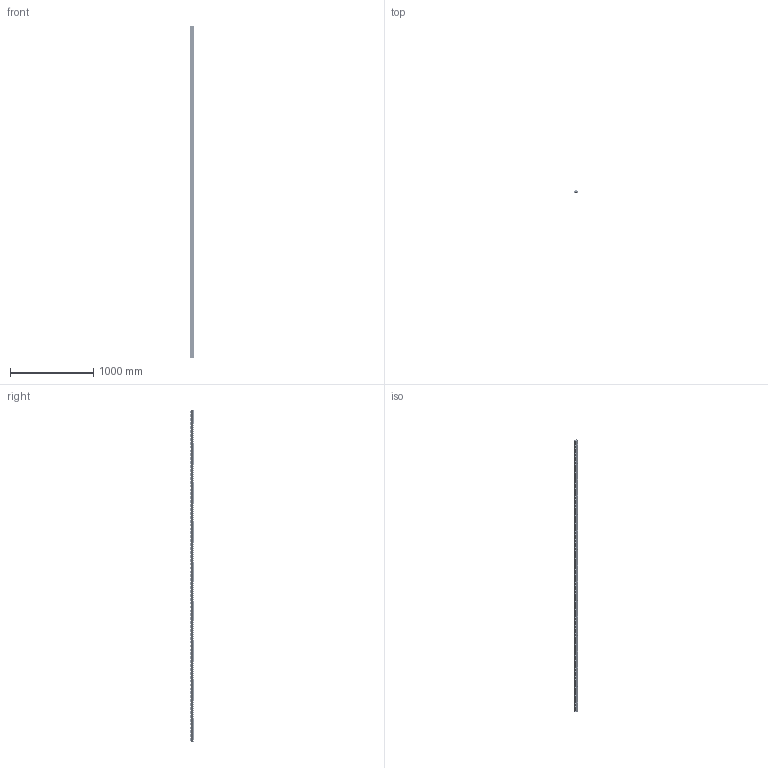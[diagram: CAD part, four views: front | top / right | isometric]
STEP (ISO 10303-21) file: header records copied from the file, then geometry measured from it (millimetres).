
FILE_DESCRIPTION (( 'STEP AP203' ), '1' );
FILE_NAME ('015.200.013.STEP', '2016-10-24T08:22:51', ( '' ), ( '' ), 'SwSTEP 2.0', 'SolidWorks 2016', '' );
FILE_SCHEMA (( 'CONFIG_CONTROL_DESIGN' ));
Length unit declared in the file: millimetre
Products named in the file (3): 015.200.013; 015.200.007_2_100<A macchina>; 015.200.007_1
Assembly tree (86 placements, depth 2):
  015.200.013
    015.200.007_2_100<A macchina>
    015.200.007_1  x85
Bounding box: 41 x 50.98 x 4000 mm (x, y, z)
Volume: 1985426.1 mm3; surface area: 1869398.5 mm2
Topology: 256 solids, 256 shells, 8579 faces, 23096 edges, 14944 vertices
Faces by surface type: plane 4374, cylinder 2845, torus 1190, cone 170
Entity records: 125339 total; most frequent: ORIENTED_EDGE 21664, DIRECTION 21656, CARTESIAN_POINT 21424, EDGE_CURVE 10832, AXIS2_PLACEMENT_3D 7448, VERTEX_POINT 7216, LINE 6760, VECTOR 6760
